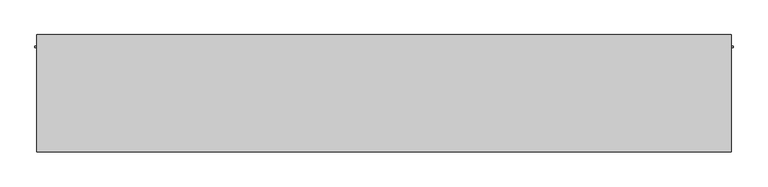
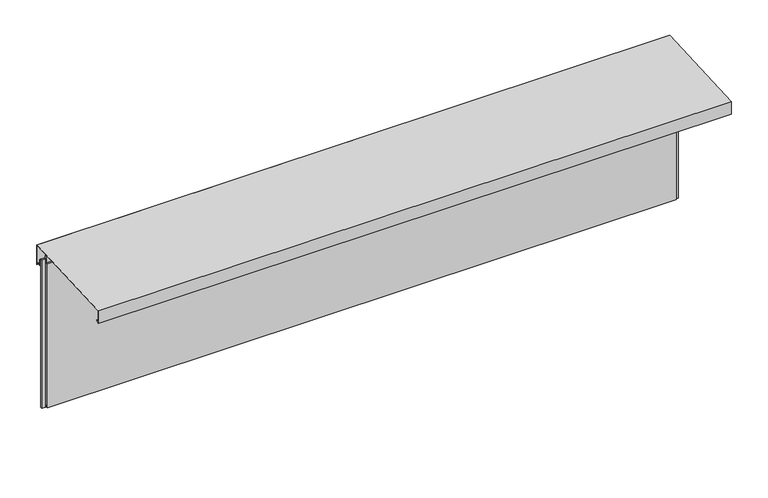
"""IFC4 building model written with IfcOpenShell, lengths in millimetres: plate geometry, Trimo_Qbiss Screen_Normal Panel-HORIZONTAL : HR - B."""

from ifc_helpers import new_model, si_unit, frame, origin, place, context, project, spatial, polyline, outline, extrude, source, transform, mapped, element, save


def plate_9de24f4d(model_context):
    return source(origin(), model_context, "Body", "SweptSolid", [
        extrude(outline(polyline([(101.0, 868.0), (77.0, 868.0), (77.0, 868.8), (101.8, 868.8), (101.8, 831.8), (125.3313708, 831.8), (133.2, 823.9313708), (133.2, 822.8), (125.0, 831.0), (101.0, 831.0), (101.0, 868.0)])), frame((-1792.5, 0.0, 0.0), z_axis=(1.0, 0.0, 0.0), x_axis=(0.0, 1.0, 0.0)), (0.0, 0.0, 1.0), 3585.0),
        extrude(outline(polyline([(134.2, 818.9715729), (134.2, 934.1569759), (-469.2, 905.4165497), (-469.2, 833.1070922), (-457.6367532, 844.670339), (-457.0710678, 844.1046536), (-470.0, 831.1757214), (-470.0, 906.1757214), (135.0, 935.0), (135.0, 817.040202), (123.020101, 829.020101), (123.5857864, 829.5857864), (134.2, 818.9715729)])), frame((-1792.5, 0.0, 0.0), z_axis=(1.0, 0.0, 0.0), x_axis=(0.0, 1.0, 0.0)), (0.0, 0.0, 1.0), 3585.0),
        extrude(outline(polyline([(-1783.0, 76.5978162), (-1783.0, 67.8978162), (-1802.0, 67.8978162), (-1802.0, 76.5978162), (-1783.0, 76.5978162)])), frame((0.0, 0.0, -1.0), z_axis=(0.0, 0.0, 1.0), x_axis=(1.0, 0.0, 0.0)), (0.0, 0.0, 1.0), 890.0),
        extrude(outline(polyline([(1783.0, 67.8978162), (1783.0, 76.5978162), (1802.0, 76.5978162), (1802.0, 67.8978162), (1783.0, 67.8978162)])), frame((0.0, 0.0, -1.0), z_axis=(0.0, 0.0, 1.0), x_axis=(1.0, 0.0, 0.0)), (0.0, 0.0, 1.0), 890.0),
        extrude(outline(polyline([(1780.0, 76.0), (1780.0, 71.0), (-1780.0, 71.0), (-1780.0, 76.0), (1780.0, 76.0)])), frame((0.0, 0.0, 868.0), z_axis=(0.0, 0.0, 1.0), x_axis=(1.0, 0.0, 0.0)), (0.0, 0.0, 1.0), 21.0),
        extrude(outline(polyline([(71.0, 867.0), (100.0, 867.0), (100.0, 0.0), (72.0, 0.0), (72.0, 15.5), (62.0, 15.5), (62.0, 7.0), (50.0, 7.0), (50.0, 867.0), (63.0, 867.0), (63.0, 904.5), (71.0, 904.5), (71.0, 867.0)])), frame((-1780.0, 0.0, 0.0), z_axis=(1.0, 0.0, 0.0), x_axis=(0.0, 1.0, 0.0)), (0.0, 0.0, 1.0), 3560.0),
    ])


if __name__ == "__main__":
    model = new_model("IFC4")
    model_context = context("Model", 3, world=origin())
    ifc_project = project(units=[si_unit("LENGTHUNIT", "METRE", prefix="MILLI")], contexts=[model_context])
    site = spatial("IfcSite", under=ifc_project)
    building = spatial("IfcBuilding", under=site)
    placement = place(None, origin())
    plate_shape = plate_9de24f4d(model_context)
    element("IfcPlate", 1, ObjectType="Trimo_Qbiss Screen_Normal Panel-HORIZONTAL : HR - B", at=placement, inside=building, context=model_context, shape_type="MappedRepresentation", body=[
        mapped(plate_shape, transform((0.0, 0.0, 0.0), x_axis=(1.0, 0.0, 0.0), y_axis=(0.0, 1.0, 0.0), z_axis=(0.0, 0.0, 1.0))),
    ])
    save(model, "model.ifc")
